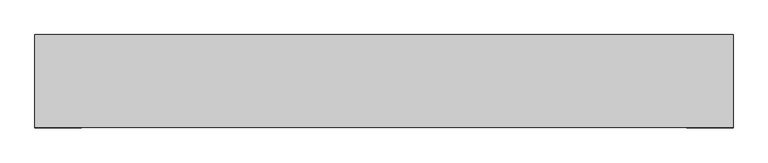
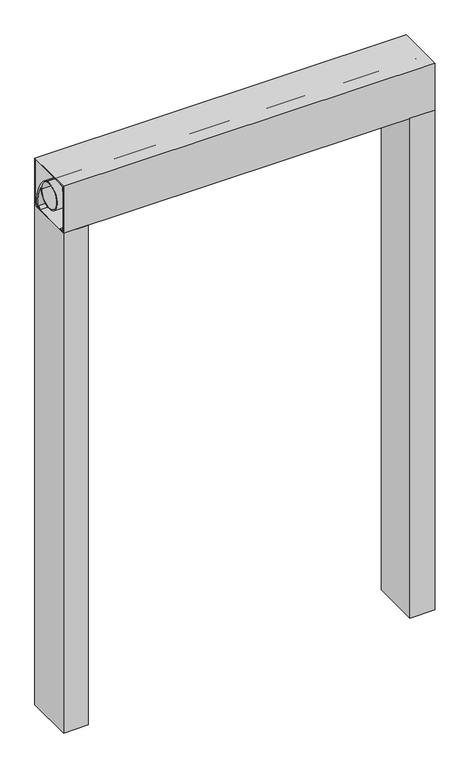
"""IFC4 building model written with IfcOpenShell, lengths in millimetres: proxy geometry, וילון אש צמוד קיר : וילון אש צמוד קיר."""

from ifc_helpers import new_model, si_unit, point, frame, frame_2d, origin, origin_with_axes, place, context, project, spatial, polyline, circle_curve, trimmed, segment, composite_curve, outline, extrude, source, transform, mapped, element, save


def generic_models_b0a361bf(model_context):
    return source(origin(), model_context, "Body", "SweptSolid", [
        extrude(outline(polyline([(100.0, 0.0), (0.0, 0.0), (0.0, 200.0), (100.0, 200.0), (100.0, 0.0)])), origin_with_axes(), (0.0, 0.0, 1.0), 2132.0),
        extrude(outline(polyline([(1500.0, 0.0), (1400.0618321, 0.0), (1400.0618321, 200.0), (1500.0, 200.0), (1500.0, 0.0)])), origin_with_axes(), (0.0, 0.0, 1.0), 2132.0),
        extrude(outline(polyline([(200.0, 2332.0), (200.0, 2132.0), (189.3933983, 2142.6066017), (190.8076118, 2144.0208153), (198.0, 2136.8284271), (198.0, 2330.0), (2.0, 2330.0), (2.0, 2134.0), (164.1715729, 2134.0), (174.1923882, 2144.0208153), (175.6066017, 2142.6066017), (165.0, 2132.0), (0.0, 2132.0), (0.0, 2332.0), (200.0, 2332.0)])), frame((0.0, 0.0, 0.0), z_axis=(1.0, 0.0, 0.0), x_axis=(0.0, 1.0, 0.0)), (0.0, 0.0, 1.0), 1500.0),
        extrude(outline(polyline([(2.7195991, 2309.3307098), (2.7195991, 2329.3307098), (22.7195991, 2329.3307098), (22.7195991, 2327.3307098), (4.7195991, 2327.3307098), (4.7195991, 2309.3307098), (2.7195991, 2309.3307098)])), frame((0.0, 0.0, 0.0), z_axis=(1.0, 0.0, 0.0), x_axis=(0.0, 1.0, 0.0)), (0.0, 0.0, 1.0), 1500.0),
        extrude(outline(polyline([(2.7195991, 2154.6692902), (4.7195991, 2154.6692902), (4.7195991, 2136.6692902), (22.7195991, 2136.6692902), (22.7195991, 2134.6692902), (2.7195991, 2134.6692902), (2.7195991, 2154.6692902)])), frame((0.0, 0.0, 0.0), z_axis=(1.0, 0.0, 0.0), x_axis=(0.0, 1.0, 0.0)), (0.0, 0.0, 1.0), 1500.0),
        extrude(outline(composite_curve([segment(trimmed(circle_curve(frame_2d((100.0, 2232.0)), 55.0), [point((153.3458963, 2245.3871335))], [point((139.9794591, 2269.7709259))], False, "CARTESIAN"), True, "CONTINUOUS"), segment(trimmed(circle_curve(frame_2d((21.9220769, 2156.108421)), 163.8801713), [point((139.9794591, 2269.7709259))], [point((184.0192532, 2132.0))], False, "CARTESIAN"), True, "CONTINUOUS"), segment(polyline([(184.0192532, 2132.0), (178.9624948, 2132.0)]), True, "CONTINUOUS"), segment(trimmed(circle_curve(frame_2d((21.9220769, 2156.108421)), 158.8801713), [point((178.9624948, 2132.0))], [point((153.3458963, 2245.3871335))], True, "CARTESIAN"), True, "CONTINUOUS")], self_intersect=False), holes=[composite_curve([segment(trimmed(circle_curve(frame_2d((100.0, 2232.0)), 50.0), [point((50.0, 2232.0))], [point((150.0, 2232.0))], True, "CARTESIAN"), True, "CONTINUOUS"), segment(trimmed(circle_curve(frame_2d((100.0, 2232.0)), 50.0), [point((150.0, 2232.0))], [point((50.0, 2232.0))], True, "CARTESIAN"), True, "CONTINUOUS")], self_intersect=False)]), frame((0.0, 0.0, 0.0), z_axis=(1.0, 0.0, 0.0), x_axis=(0.0, 1.0, 0.0)), (0.0, 0.0, 1.0), 1500.0),
    ])


if __name__ == "__main__":
    model = new_model("IFC4")
    model_context = context("Model", 3, world=origin())
    ifc_project = project(units=[si_unit("LENGTHUNIT", "METRE", prefix="MILLI")], contexts=[model_context])
    site = spatial("IfcSite", under=ifc_project)
    building = spatial("IfcBuilding", under=site)
    placement = place(None, origin())
    generic_models_shape = generic_models_b0a361bf(model_context)
    element("IfcBuildingElementProxy", 1, Name="וילון אש צמוד קיר : וילון אש צמוד קיר", ObjectType="וילון אש צמוד קיר : וילון אש צמוד קיר", at=placement, inside=building, context=model_context, shape_type="MappedRepresentation", body=[
        mapped(generic_models_shape, transform((0.0, 0.0, 0.0), x_axis=(1.0, 0.0, 0.0), y_axis=(0.0, 1.0, 0.0), z_axis=(0.0, 0.0, 1.0))),
    ])
    save(model, "model.ifc")
